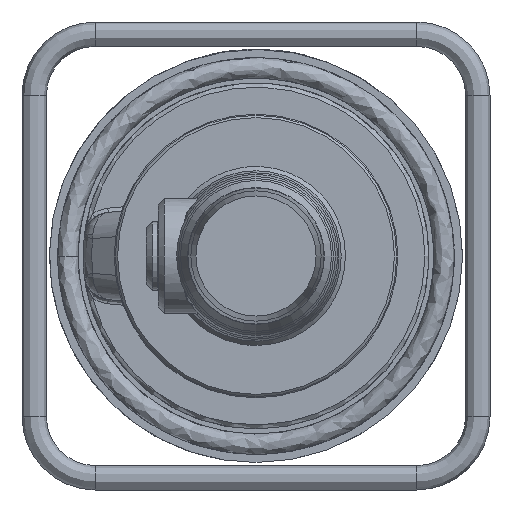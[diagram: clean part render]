
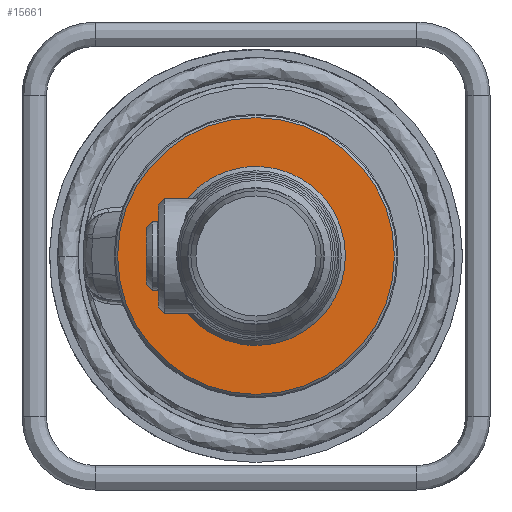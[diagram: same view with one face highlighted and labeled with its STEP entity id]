
A CAD part, left-side view. The second image highlights one B-rep face of the part: STEP entity #15661.
In plain terms, the highlighted planar face has unit normal (-1, 0, 0).
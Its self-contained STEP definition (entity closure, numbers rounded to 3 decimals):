
#301=FACE_BOUND('',#4159,.T.);
#1075=B_SPLINE_CURVE_WITH_KNOTS('',3,(#33262,#33263,#33264,#33265,#33266,
#33267,#33268,#33269,#33270,#33271,#33272,#33273,#33274,#33275,#33276,#33277,
#33278,#33279,#33280,#33281,#33282,#33283,#33284,#33285,#33286,#33287),
 .UNSPECIFIED.,.F.,.F.,(4,2,2,2,2,2,2,2,2,2,2,2,4),(-9.637,-9.63,
-9.622,-9.603,-9.551,-9.384,
-8.87,-7.81,-6.371,-4.874,
-3.299,-1.673,0.),.UNSPECIFIED.);
#1855=CIRCLE('',#16671,68.);
#1856=CIRCLE('',#16672,40.75);
#2299=PLANE('',#16670);
#3096=FACE_OUTER_BOUND('',#4158,.T.);
#4158=EDGE_LOOP('',(#13985));
#4159=EDGE_LOOP('',(#13986,#13987,#13988));
#5339=LINE('',#33260,#6235);
#6235=VECTOR('',#19542,1.668);
#7594=VERTEX_POINT('',#33256);
#7595=VERTEX_POINT('',#33258);
#7596=VERTEX_POINT('',#33259);
#7597=VERTEX_POINT('',#33261);
#9753=EDGE_CURVE('',#7594,#7594,#1855,.T.);
#9754=EDGE_CURVE('',#7595,#7596,#5339,.T.);
#9755=EDGE_CURVE('',#7597,#7595,#1075,.T.);
#9756=EDGE_CURVE('',#7597,#7596,#1856,.T.);
#13985=ORIENTED_EDGE('',*,*,#9753,.F.);
#13986=ORIENTED_EDGE('',*,*,#9754,.F.);
#13987=ORIENTED_EDGE('',*,*,#9755,.F.);
#13988=ORIENTED_EDGE('',*,*,#9756,.T.);
#15661=ADVANCED_FACE('',(#3096,#301),#2299,.T.);
#16670=AXIS2_PLACEMENT_3D('',#33255,#19538,#19539);
#16671=AXIS2_PLACEMENT_3D('',#33257,#19540,#19541);
#16672=AXIS2_PLACEMENT_3D('',#33288,#19543,#19544);
#19538=DIRECTION('center_axis',(-1.,0.,0.));
#19539=DIRECTION('ref_axis',(0.,-1.,0.));
#19540=DIRECTION('center_axis',(1.,0.,0.));
#19541=DIRECTION('ref_axis',(0.,0.,
-1.));
#19542=DIRECTION('',(0.,0.951,-0.309));
#19543=DIRECTION('center_axis',(1.,0.,0.));
#19544=DIRECTION('ref_axis',(0.,0.,
-1.));
#33255=CARTESIAN_POINT('Origin',(-128.,0.,-55.5));
#33256=CARTESIAN_POINT('',(-128.,0.,-68.));
#33257=CARTESIAN_POINT('Origin',(-128.,0.,0.));
#33258=CARTESIAN_POINT('',(-128.,-40.342,13.108));
#33259=CARTESIAN_POINT('',(-128.,-38.756,12.592));
#33260=CARTESIAN_POINT('',(-128.,-11.266,3.661));
#33261=CARTESIAN_POINT('',(-128.,6.525,-40.224));
#33262=CARTESIAN_POINT('Ctrl Pts',(-128.,6.525,-40.224));
#33263=CARTESIAN_POINT('Ctrl Pts',(-128.,6.526,-40.229));
#33264=CARTESIAN_POINT('Ctrl Pts',(-128.,6.526,-40.234));
#33265=CARTESIAN_POINT('Ctrl Pts',(-128.,6.524,-40.245));
#33266=CARTESIAN_POINT('Ctrl Pts',(-128.,6.523,-40.25));
#33267=CARTESIAN_POINT('Ctrl Pts',(-128.,6.515,-40.268));
#33268=CARTESIAN_POINT('Ctrl Pts',(-128.,6.507,-40.279));
#33269=CARTESIAN_POINT('Ctrl Pts',(-128.,6.472,-40.317));
#33270=CARTESIAN_POINT('Ctrl Pts',(-128.,6.433,-40.344));
#33271=CARTESIAN_POINT('Ctrl Pts',(-128.,6.276,-40.437));
#33272=CARTESIAN_POINT('Ctrl Pts',(-128.,6.099,-40.505));
#33273=CARTESIAN_POINT('Ctrl Pts',(-128.,5.564,-40.695));
#33274=CARTESIAN_POINT('Ctrl Pts',(-128.,4.963,-40.856));
#33275=CARTESIAN_POINT('Ctrl Pts',(-128.,2.674,-41.317));
#33276=CARTESIAN_POINT('Ctrl Pts',(-128.,0.244,-41.635));
#33277=CARTESIAN_POINT('Ctrl Pts',(-128.,-6.94,-41.468));
#33278=CARTESIAN_POINT('Ctrl Pts',(-128.,-11.399,-40.675));
#33279=CARTESIAN_POINT('Ctrl Pts',(-128.,-20.537,
-37.191));
#33280=CARTESIAN_POINT('Ctrl Pts',(-128.,-24.833,
-34.57));
#33281=CARTESIAN_POINT('Ctrl Pts',(-128.,-32.474,
-27.759));
#33282=CARTESIAN_POINT('Ctrl Pts',(-128.,-35.695,
-23.552));
#33283=CARTESIAN_POINT('Ctrl Pts',(-128.,-40.483,
-14.015));
#33284=CARTESIAN_POINT('Ctrl Pts',(-128.,-41.949,
-8.738));
#33285=CARTESIAN_POINT('Ctrl Pts',(-128.,-42.796,
2.228));
#33286=CARTESIAN_POINT('Ctrl Pts',(-128.,-42.109,7.82));
#33287=CARTESIAN_POINT('Ctrl Pts',(-128.,-40.342,13.108));
#33288=CARTESIAN_POINT('Origin',(-128.,0.,
0.));
